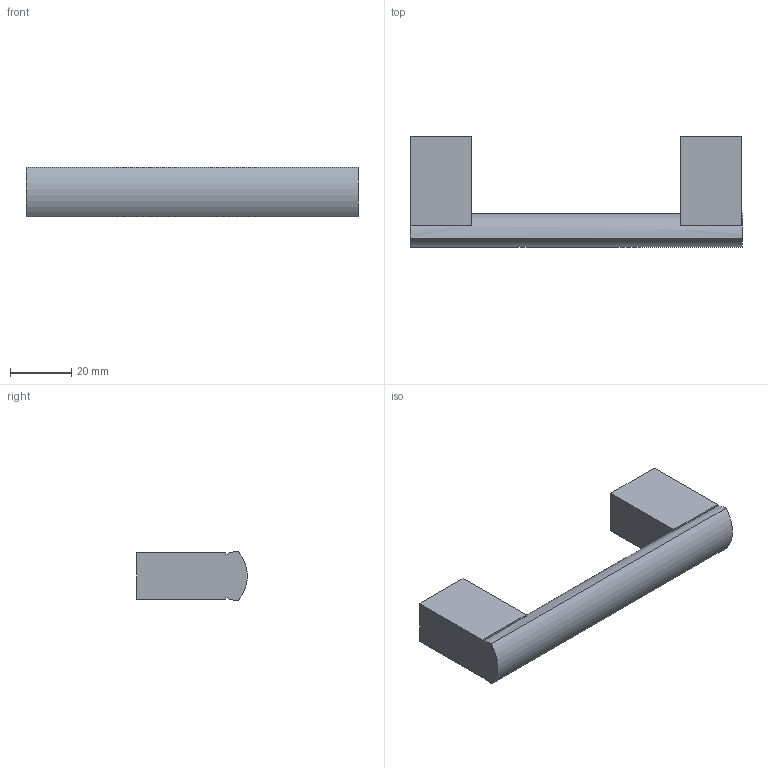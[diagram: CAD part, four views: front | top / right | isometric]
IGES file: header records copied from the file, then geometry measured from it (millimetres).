
Start section: Data from Parasolid IGES Translator 20.0.26, Copyright(c) 2006 Siemens P LM Software. All Rights Reserved.
Global section: file name: 115205.igs; native system: By Siemens PLM Incorporated; preprocessor: XPlus GENERIC/IGES 20.0.26; author: Noname; organization: Noname; date: 20230220.160155; units: millimetre
Bounding box: 108 x 35.96 x 16 mm (x, y, z)
Surface area: 8946.2 mm2 (no closed solid volume)
Topology: 0 solids, 0 shells, 22 faces, 102 edges, 100 vertices
Faces by surface type: extrusion 17, revolution 5
